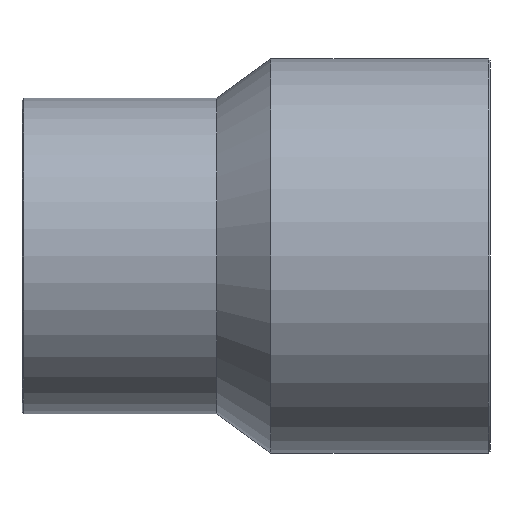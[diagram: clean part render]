
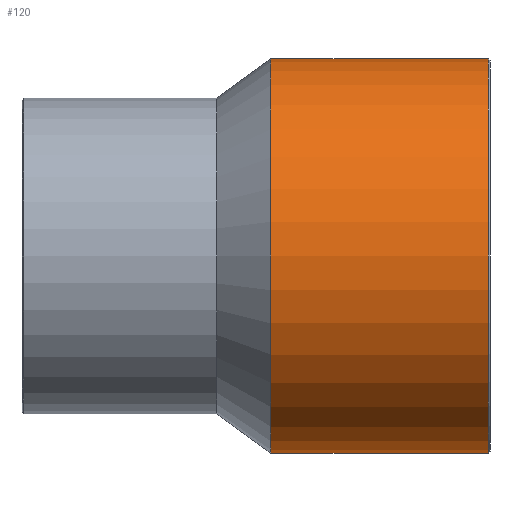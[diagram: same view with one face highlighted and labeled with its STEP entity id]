
A CAD part, front view. The second image highlights one B-rep face of the part: STEP entity #120.
In plain terms, the highlighted cylindrical face has radius 112.5 mm (diameter 225 mm), a full revolution.
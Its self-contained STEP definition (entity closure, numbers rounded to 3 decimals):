
#26=ORIENTED_EDGE('',*,*,#46,.T.);
#27=ORIENTED_EDGE('',*,*,#47,.F.);
#46=EDGE_CURVE('',#56,#56,#66,.T.);
#47=EDGE_CURVE('',#57,#57,#67,.T.);
#56=VERTEX_POINT('',#208);
#57=VERTEX_POINT('',#210);
#66=CIRCLE('',#144,112.5);
#67=CIRCLE('',#145,112.5);
#76=EDGE_LOOP('',(#26));
#77=EDGE_LOOP('',(#27));
#96=FACE_BOUND('',#76,.T.);
#97=FACE_BOUND('',#77,.T.);
#116=CYLINDRICAL_SURFACE('',#143,112.5);
#120=ADVANCED_FACE('',(#96,#97),#116,.T.);
#143=AXIS2_PLACEMENT_3D('',#206,#165,#166);
#144=AXIS2_PLACEMENT_3D('',#207,#167,#168);
#145=AXIS2_PLACEMENT_3D('',#209,#169,#170);
#165=DIRECTION('',(-1.,0.,0.));
#166=DIRECTION('',(0.,0.,1.));
#167=DIRECTION('',(-1.,0.,0.));
#168=DIRECTION('',(0.,0.,1.));
#169=DIRECTION('',(-1.,0.,0.));
#170=DIRECTION('',(0.,0.,1.));
#206=CARTESIAN_POINT('',(-60.,0.,0.));
#207=CARTESIAN_POINT('',(139.5,0.,0.));
#208=CARTESIAN_POINT('',(139.5,0.,112.5));
#209=CARTESIAN_POINT('',(15.5,0.,0.));
#210=CARTESIAN_POINT('',(15.5,0.,112.5));
